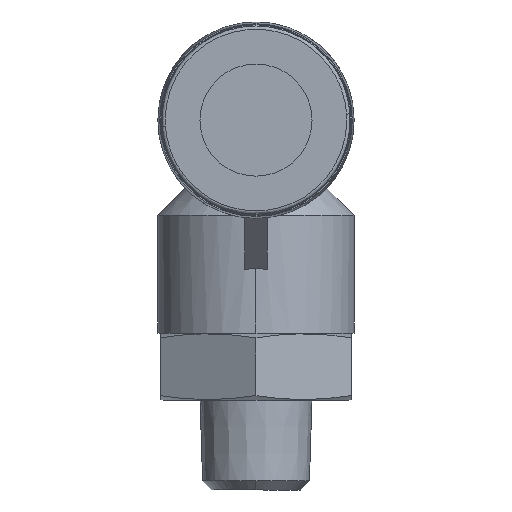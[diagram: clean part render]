
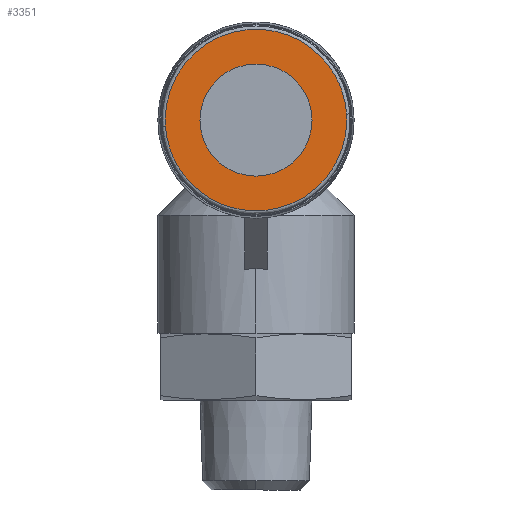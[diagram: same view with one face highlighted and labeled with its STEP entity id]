
A CAD part, left-side view. The second image highlights one B-rep face of the part: STEP entity #3351.
In plain terms, the highlighted planar face has unit normal (-1, 0, 0).
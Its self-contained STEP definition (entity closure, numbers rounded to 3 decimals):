
#119 = VERTEX_POINT ( 'NONE', #2999 ) ;
#183 = CARTESIAN_POINT ( 'NONE',  ( -25.2, -8.1, 33. ) ) ;
#189 = ORIENTED_EDGE ( 'NONE', *, *, #1522, .F. ) ;
#199 = EDGE_CURVE ( 'NONE', #1274, #1136, #481, .T. ) ;
#276 = CARTESIAN_POINT ( 'NONE',  ( -25.2, 8.1, 33. ) ) ;
#281 = CARTESIAN_POINT ( 'NONE',  ( -25.2, 8.1, 48.189 ) ) ;
#332 = CARTESIAN_POINT ( 'NONE',  ( -25.2, 0., 28. ) ) ;
#372 = CARTESIAN_POINT ( 'NONE',  ( -25.2, -7.081, 48.69 ) ) ;
#380 = AXIS2_PLACEMENT_3D ( 'NONE', #3457, #3440, #3426 ) ;
#399 = ORIENTED_EDGE ( 'NONE', *, *, #1190, .T. ) ;
#406 = VERTEX_POINT ( 'NONE', #183 ) ;
#481 = CIRCLE ( 'NONE', #1698, 5. ) ;
#509 =( BOUNDED_CURVE ( )  B_SPLINE_CURVE ( 3, ( #276, #281, #372, #741 ),
 .UNSPECIFIED., .F., .F. ) 
 B_SPLINE_CURVE_WITH_KNOTS ( ( 4, 4 ),
 ( 0., 0.979 ),
 .UNSPECIFIED. ) 
 CURVE ( )  GEOMETRIC_REPRESENTATION_ITEM ( )  RATIONAL_B_SPLINE_CURVE ( ( 1., 0.355, 0.355, 1. ) ) 
 REPRESENTATION_ITEM ( '' )  );
#606 = ORIENTED_EDGE ( 'NONE', *, *, #954, .F. ) ;
#741 = CARTESIAN_POINT ( 'NONE',  ( -25.2, -8.082, 33.534 ) ) ;
#757 = CARTESIAN_POINT ( 'NONE',  ( -25.2, -8.1, 33.178 ) ) ;
#760 = FACE_BOUND ( 'NONE', #2589, .T. ) ;
#794 =( BOUNDED_CURVE ( )  B_SPLINE_CURVE ( 3, ( #3112, #3199, #1605, #1624 ),
 .UNSPECIFIED., .F., .T. ) 
 B_SPLINE_CURVE_WITH_KNOTS ( ( 4, 4 ),
 ( 0.979, 1. ),
 .UNSPECIFIED. ) 
 CURVE ( )  GEOMETRIC_REPRESENTATION_ITEM ( )  RATIONAL_B_SPLINE_CURVE ( ( 1., 1., 1., 1. ) ) 
 REPRESENTATION_ITEM ( '' )  );
#797 = DIRECTION ( 'NONE',  ( 0., 0., 1. ) ) ;
#843 = FACE_OUTER_BOUND ( 'NONE', #3529, .T. ) ;
#954 = EDGE_CURVE ( 'NONE', #119, #406, #1773, .T. ) ;
#963 = CARTESIAN_POINT ( 'NONE',  ( -25.2, -8.1, 33. ) ) ;
#975 = CARTESIAN_POINT ( 'NONE',  ( -25.2, -8.082, 33.534 ) ) ;
#999 = ORIENTED_EDGE ( 'NONE', *, *, #1044, .F. ) ;
#1044 = EDGE_CURVE ( 'NONE', #1528, #119, #509, .T. ) ;
#1136 = VERTEX_POINT ( 'NONE', #332 ) ;
#1190 = EDGE_CURVE ( 'NONE', #1136, #1274, #1830, .T. ) ;
#1274 = VERTEX_POINT ( 'NONE', #3006 ) ;
#1489 = ORIENTED_EDGE ( 'NONE', *, *, #199, .T. ) ;
#1522 = EDGE_CURVE ( 'NONE', #406, #1640, #2832, .T. ) ;
#1528 = VERTEX_POINT ( 'NONE', #2581 ) ;
#1605 = CARTESIAN_POINT ( 'NONE',  ( -25.2, 8.1, 32.822 ) ) ;
#1624 = CARTESIAN_POINT ( 'NONE',  ( -25.2, 8.1, 33. ) ) ;
#1625 = CARTESIAN_POINT ( 'NONE',  ( -25.2, 8.6, 41.6 ) ) ;
#1640 = VERTEX_POINT ( 'NONE', #2873 ) ;
#1698 = AXIS2_PLACEMENT_3D ( 'NONE', #3433, #3449, #3444 ) ;
#1752 = CARTESIAN_POINT ( 'NONE',  ( -25.2, -8.094, 33.356 ) ) ;
#1773 =( BOUNDED_CURVE ( )  B_SPLINE_CURVE ( 3, ( #975, #1752, #757, #963 ),
 .UNSPECIFIED., .F., .T. ) 
 B_SPLINE_CURVE_WITH_KNOTS ( ( 4, 4 ),
 ( 0.979, 1. ),
 .UNSPECIFIED. ) 
 CURVE ( )  GEOMETRIC_REPRESENTATION_ITEM ( )  RATIONAL_B_SPLINE_CURVE ( ( 1., 1., 1., 1. ) ) 
 REPRESENTATION_ITEM ( '' )  );
#1786 = EDGE_CURVE ( 'NONE', #1640, #1528, #794, .T. ) ;
#1816 = CARTESIAN_POINT ( 'NONE',  ( -25.2, 8.082, 32.466 ) ) ;
#1830 = CIRCLE ( 'NONE', #380, 5. ) ;
#2519 = CARTESIAN_POINT ( 'NONE',  ( -25.2, -8.1, 33. ) ) ;
#2527 = CARTESIAN_POINT ( 'NONE',  ( -25.2, -8.1, 17.811 ) ) ;
#2581 = CARTESIAN_POINT ( 'NONE',  ( -25.2, 8.1, 33. ) ) ;
#2589 = EDGE_LOOP ( 'NONE', ( #1489, #399 ) ) ;
#2639 = ORIENTED_EDGE ( 'NONE', *, *, #1786, .F. ) ;
#2737 = DIRECTION ( 'NONE',  ( -1., 0., 0. ) ) ;
#2832 =( BOUNDED_CURVE ( )  B_SPLINE_CURVE ( 3, ( #2519, #2527, #3325, #1816 ),
 .UNSPECIFIED., .F., .T. ) 
 B_SPLINE_CURVE_WITH_KNOTS ( ( 4, 4 ),
 ( 0., 0.979 ),
 .UNSPECIFIED. ) 
 CURVE ( )  GEOMETRIC_REPRESENTATION_ITEM ( )  RATIONAL_B_SPLINE_CURVE ( ( 1., 0.355, 0.355, 1. ) ) 
 REPRESENTATION_ITEM ( '' )  );
#2873 = CARTESIAN_POINT ( 'NONE',  ( -25.2, 8.082, 32.466 ) ) ;
#2999 = CARTESIAN_POINT ( 'NONE',  ( -25.2, -8.082, 33.534 ) ) ;
#3006 = CARTESIAN_POINT ( 'NONE',  ( -25.2, 0., 38. ) ) ;
#3007 = PLANE ( 'NONE',  #3179 ) ;
#3112 = CARTESIAN_POINT ( 'NONE',  ( -25.2, 8.082, 32.466 ) ) ;
#3179 = AXIS2_PLACEMENT_3D ( 'NONE', #1625, #2737, #797 ) ;
#3199 = CARTESIAN_POINT ( 'NONE',  ( -25.2, 8.094, 32.644 ) ) ;
#3325 = CARTESIAN_POINT ( 'NONE',  ( -25.2, 7.081, 17.31 ) ) ;
#3351 = ADVANCED_FACE ( '24', ( #760, #843 ), #3007, .T. ) ;
#3426 = DIRECTION ( 'NONE',  ( 0., 0., 1. ) ) ;
#3433 = CARTESIAN_POINT ( 'NONE',  ( -25.2, 0., 33. ) ) ;
#3440 = DIRECTION ( 'NONE',  ( 1., 0., 0. ) ) ;
#3444 = DIRECTION ( 'NONE',  ( 0., 0., 1. ) ) ;
#3449 = DIRECTION ( 'NONE',  ( 1., 0., 0. ) ) ;
#3457 = CARTESIAN_POINT ( 'NONE',  ( -25.2, 0., 33. ) ) ;
#3529 = EDGE_LOOP ( 'NONE', ( #189, #606, #999, #2639 ) ) ;
